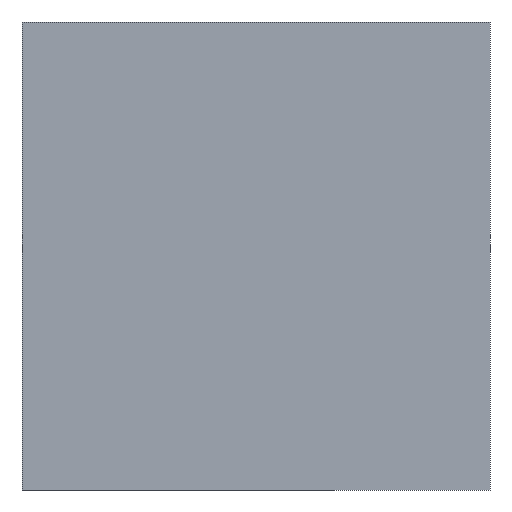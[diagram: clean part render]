
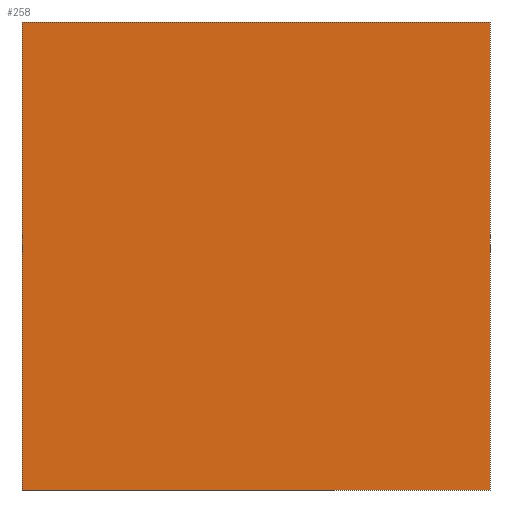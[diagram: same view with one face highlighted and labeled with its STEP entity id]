
A CAD part, left-side view. The second image highlights one B-rep face of the part: STEP entity #258.
In plain terms, the highlighted planar face has unit normal (-1, 0, 0).
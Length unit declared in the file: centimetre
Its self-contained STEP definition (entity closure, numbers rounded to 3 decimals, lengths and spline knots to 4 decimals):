
#2 = CARTESIAN_POINT ( 'NONE',  ( 0., 1000., 1000. ) ) ;
#14 = FACE_OUTER_BOUND ( 'NONE', #16, .T. ) ;
#16 = EDGE_LOOP ( 'NONE', ( #233, #423, #209, #459 ) ) ;
#29 = VECTOR ( 'NONE', #494, 100. ) ;
#50 = DIRECTION ( 'NONE',  ( 0., 0., -1. ) ) ;
#84 = VERTEX_POINT ( 'NONE', #540 ) ;
#194 = VECTOR ( 'NONE', #50, 100. ) ;
#195 = VERTEX_POINT ( 'NONE', #376 ) ;
#209 = ORIENTED_EDGE ( 'NONE', *, *, #229, .F. ) ;
#216 = EDGE_CURVE ( 'NONE', #341, #240, #260, .T. ) ;
#226 = LINE ( 'NONE', #314, #29 ) ;
#229 = EDGE_CURVE ( 'NONE', #84, #341, #226, .T. ) ;
#231 = CARTESIAN_POINT ( 'NONE',  ( 0., 0., 1000. ) ) ;
#233 = ORIENTED_EDGE ( 'NONE', *, *, #372, .T. ) ;
#240 = VERTEX_POINT ( 'NONE', #457 ) ;
#258 = ADVANCED_FACE ( 'NONE', ( #14 ), #503, .F. ) ;
#260 = LINE ( 'NONE', #401, #530 ) ;
#288 = LINE ( 'NONE', #553, #525 ) ;
#310 = DIRECTION ( 'NONE',  ( 0., 0., -1. ) ) ;
#311 = LINE ( 'NONE', #2, #194 ) ;
#314 = CARTESIAN_POINT ( 'NONE',  ( 0., 1000., 1000. ) ) ;
#341 = VERTEX_POINT ( 'NONE', #231 ) ;
#372 = EDGE_CURVE ( 'NONE', #195, #240, #288, .T. ) ;
#376 = CARTESIAN_POINT ( 'NONE',  ( 0., 1000., 0. ) ) ;
#401 = CARTESIAN_POINT ( 'NONE',  ( 0., 0., 1000. ) ) ;
#421 = DIRECTION ( 'NONE',  ( 0., -1., 0. ) ) ;
#423 = ORIENTED_EDGE ( 'NONE', *, *, #216, .F. ) ;
#439 = DIRECTION ( 'NONE',  ( 0., 0., -1. ) ) ;
#443 = CARTESIAN_POINT ( 'NONE',  ( 0., 1000., 1000. ) ) ;
#457 = CARTESIAN_POINT ( 'NONE',  ( 0., 0., 0. ) ) ;
#459 = ORIENTED_EDGE ( 'NONE', *, *, #487, .T. ) ;
#487 = EDGE_CURVE ( 'NONE', #84, #195, #311, .T. ) ;
#494 = DIRECTION ( 'NONE',  ( 0., -1., 0. ) ) ;
#499 = DIRECTION ( 'NONE',  ( 1., 0., 0. ) ) ;
#503 = PLANE ( 'NONE',  #569 ) ;
#525 = VECTOR ( 'NONE', #421, 100. ) ;
#530 = VECTOR ( 'NONE', #310, 100. ) ;
#540 = CARTESIAN_POINT ( 'NONE',  ( 0., 1000., 1000. ) ) ;
#553 = CARTESIAN_POINT ( 'NONE',  ( 0., 1000., 0. ) ) ;
#569 = AXIS2_PLACEMENT_3D ( 'NONE', #443, #499, #439 ) ;
